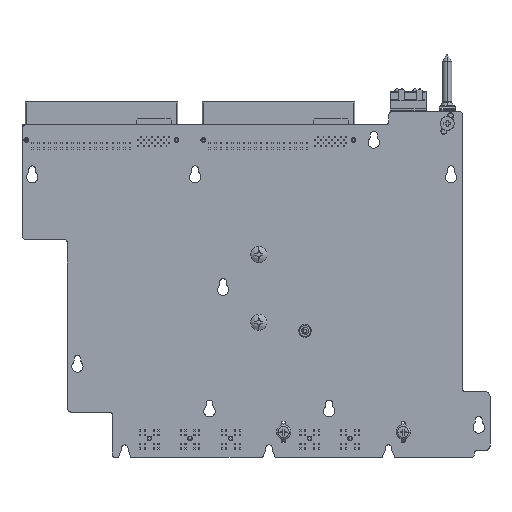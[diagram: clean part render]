
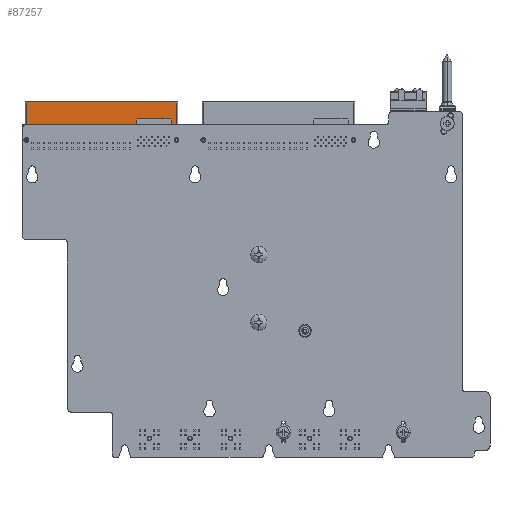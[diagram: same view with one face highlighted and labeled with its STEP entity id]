
A CAD part, front view. The second image highlights one B-rep face of the part: STEP entity #87257.
In plain terms, the highlighted planar face has unit normal (0, -1, 0) as drawn and (0, 0, 1) by its records, which use the part's own axes.
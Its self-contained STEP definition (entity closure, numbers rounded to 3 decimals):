
#80796=DIRECTION('',(-1.,0.,0.));
#80797=VECTOR('',#80796,66.28);
#80798=CARTESIAN_POINT('',(252.072,219.407,
-245.101));
#80799=LINE('',#80798,#80797);
#81030=DIRECTION('',(-0.707,0.707,0.));
#81031=VECTOR('',#81030,0.707);
#81032=CARTESIAN_POINT('',(249.927,211.407,
-245.101));
#81033=LINE('',#81032,#81031);
#81034=DIRECTION('',(-1.,0.,0.));
#81035=VECTOR('',#81034,14.62);
#81036=CARTESIAN_POINT('',(249.427,211.907,
-245.101));
#81037=LINE('',#81036,#81035);
#81038=DIRECTION('',(-0.707,-0.707,0.));
#81039=VECTOR('',#81038,0.707);
#81040=CARTESIAN_POINT('',(234.807,211.907,
-245.101));
#81041=LINE('',#81040,#81039);
#81042=DIRECTION('',(0.,-1.,0.));
#81043=VECTOR('',#81042,2.);
#81044=CARTESIAN_POINT('',(234.307,211.407,
-245.101));
#81045=LINE('',#81044,#81043);
#81050=DIRECTION('',(0.,1.,0.));
#81051=VECTOR('',#81050,10.);
#81052=CARTESIAN_POINT('',(252.072,209.407,
-245.101));
#81053=LINE('',#81052,#81051);
#81083=DIRECTION('',(1.,0.,0.));
#81084=VECTOR('',#81083,2.145);
#81085=CARTESIAN_POINT('',(249.927,209.407,
-245.101));
#81086=LINE('',#81085,#81084);
#81104=DIRECTION('',(0.,-1.,0.));
#81105=VECTOR('',#81104,2.);
#81106=CARTESIAN_POINT('',(249.927,211.407,
-245.101));
#81107=LINE('',#81106,#81105);
#81146=DIRECTION('',(1.,0.,0.));
#81147=VECTOR('',#81146,48.515);
#81148=CARTESIAN_POINT('',(185.792,209.407,
-245.101));
#81149=LINE('',#81148,#81147);
#81198=DIRECTION('',(0.,-1.,0.));
#81199=VECTOR('',#81198,10.);
#81200=CARTESIAN_POINT('',(185.792,219.407,
-245.101));
#81201=LINE('',#81200,#81199);
#84966=CARTESIAN_POINT('',(252.072,219.407,
-245.101));
#84967=VERTEX_POINT('',#84966);
#84968=CARTESIAN_POINT('',(185.792,219.407,
-245.101));
#84969=VERTEX_POINT('',#84968);
#85630=CARTESIAN_POINT('',(249.927,211.407,
-245.101));
#85631=CARTESIAN_POINT('',(249.427,211.907,
-245.101));
#85632=VERTEX_POINT('',#85630);
#85633=VERTEX_POINT('',#85631);
#85634=CARTESIAN_POINT('',(252.072,209.407,
-245.101));
#85635=VERTEX_POINT('',#85634);
#85636=CARTESIAN_POINT('',(249.927,209.407,
-245.101));
#85637=VERTEX_POINT('',#85636);
#85638=CARTESIAN_POINT('',(234.807,211.907,
-245.101));
#85639=VERTEX_POINT('',#85638);
#85640=CARTESIAN_POINT('',(234.307,211.407,
-245.101));
#85641=VERTEX_POINT('',#85640);
#85642=CARTESIAN_POINT('',(234.307,209.407,
-245.101));
#85643=VERTEX_POINT('',#85642);
#85644=CARTESIAN_POINT('',(185.792,209.407,
-245.101));
#85645=VERTEX_POINT('',#85644);
#87232=CARTESIAN_POINT('',(237.532,219.407,
-245.101));
#87233=DIRECTION('',(0.,0.,-1.));
#87234=DIRECTION('',(-1.,0.,0.));
#87235=AXIS2_PLACEMENT_3D('',#87232,#87233,#87234);
#87236=PLANE('',#87235);
#87237=ORIENTED_EDGE('',*,*,#86347,.F.);
#87239=ORIENTED_EDGE('',*,*,#87238,.F.);
#87241=ORIENTED_EDGE('',*,*,#87240,.F.);
#87243=ORIENTED_EDGE('',*,*,#87242,.F.);
#87244=ORIENTED_EDGE('',*,*,#87222,.T.);
#87246=ORIENTED_EDGE('',*,*,#87245,.T.);
#87248=ORIENTED_EDGE('',*,*,#87247,.T.);
#87250=ORIENTED_EDGE('',*,*,#87249,.T.);
#87252=ORIENTED_EDGE('',*,*,#87251,.F.);
#87254=ORIENTED_EDGE('',*,*,#87253,.F.);
#87255=EDGE_LOOP('',(#87237,#87239,#87241,#87243,#87244,#87246,#87248,#87250,
#87252,#87254));
#87256=FACE_OUTER_BOUND('',#87255,.F.);
#86347=EDGE_CURVE('',#84967,#84969,#80799,.T.);
#87222=EDGE_CURVE('',#85632,#85633,#81033,.T.);
#87238=EDGE_CURVE('',#85635,#84967,#81053,.T.);
#87240=EDGE_CURVE('',#85637,#85635,#81086,.T.);
#87242=EDGE_CURVE('',#85632,#85637,#81107,.T.);
#87245=EDGE_CURVE('',#85633,#85639,#81037,.T.);
#87247=EDGE_CURVE('',#85639,#85641,#81041,.T.);
#87249=EDGE_CURVE('',#85641,#85643,#81045,.T.);
#87251=EDGE_CURVE('',#85645,#85643,#81149,.T.);
#87253=EDGE_CURVE('',#84969,#85645,#81201,.T.);
#87257=ADVANCED_FACE('',(#87256),#87236,.F.);
